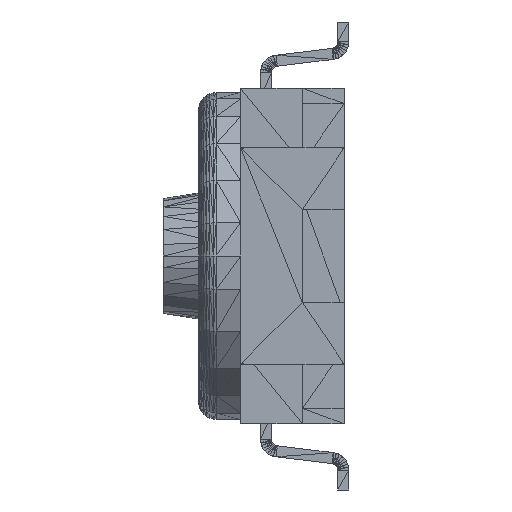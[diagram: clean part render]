
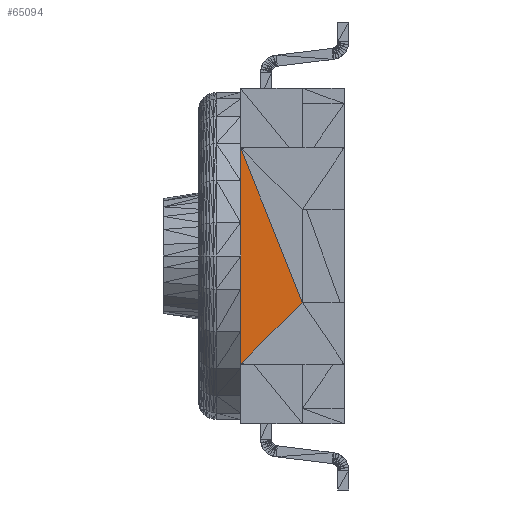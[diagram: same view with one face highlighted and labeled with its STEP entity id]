
A CAD part, left-side view. The second image highlights one B-rep face of the part: STEP entity #65094.
In plain terms, the highlighted planar face has unit normal (-1, 0, 0).
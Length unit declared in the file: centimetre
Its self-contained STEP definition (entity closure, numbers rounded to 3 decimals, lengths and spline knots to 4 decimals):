
#2703=DIRECTION('',(0.,0.371,0.928));
#3028=DIRECTION('',(0.,0.,1.));
#3426=DIRECTION('',(0.,-0.707,0.707));
#8289=VECTOR('',#2703,1.);
#8614=VECTOR('',#3028,1.);
#9012=VECTOR('',#3426,1.);
#11538=CARTESIAN_POINT('',(-0.38,0.235,-0.245));
#11541=CARTESIAN_POINT('',(-0.38,0.095,-0.105));
#11542=CARTESIAN_POINT('',(-0.38,0.235,0.245));
#14384=VERTEX_POINT('',#11538);
#14387=VERTEX_POINT('',#11541);
#14388=VERTEX_POINT('',#11542);
#17564=LINE('',#11541,#8289);
#17598=LINE('',#11538,#8614);
#17599=LINE('',#11538,#9012);
#24550=EDGE_CURVE('',#14387,#14388,#17564,.T.);
#24584=EDGE_CURVE('',#14384,#14388,#17598,.T.);
#24585=EDGE_CURVE('',#14384,#14387,#17599,.T.);
#31536=ORIENTED_EDGE('',*,*,#24550,.T.);
#31571=ORIENTED_EDGE('',*,*,#24585,.T.);
#38556=ORIENTED_EDGE('',*,*,#24584,.F.);
#45344=EDGE_LOOP('',(#38556,#31571,#31536));
#49294=FACE_OUTER_BOUND('',#45344,.T.);
#53509=DIRECTION('',(-1.,0.,0.));
#53510=AXIS2_PLACEMENT_3D('',#11542,#53509,#3028);
#61144=PLANE('',#53510);
#65094=ADVANCED_FACE('',(#49294),#61144,.T.);
